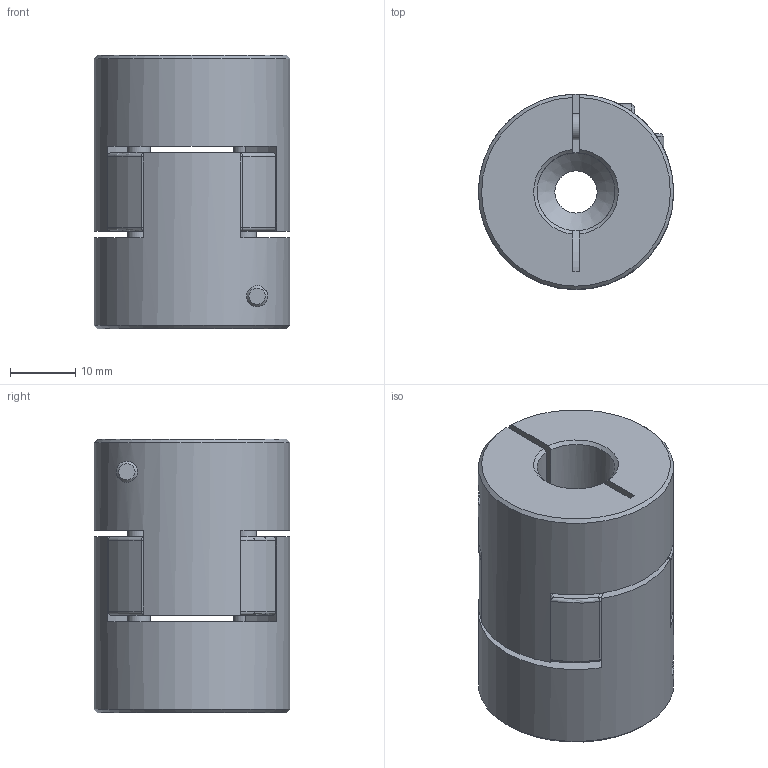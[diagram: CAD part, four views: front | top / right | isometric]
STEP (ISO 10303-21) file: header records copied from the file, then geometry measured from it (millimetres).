
FILE_DESCRIPTION(('STEP AP214'), '1');
FILE_NAME('BF-30-14-12 - Ìóôòà', '', ('UNSPECIFIED'), ('UNSPECIFIED'), 'ASCON STEP Converter 1.3', 'ASCON Math Kernel', '');
FILE_SCHEMA(('AUTOMOTIVE_DESIGN { 1 0 10303 214 3 1 1}'));
Length unit declared in the file: millimetre
Products named in the file (6): BF-30-14-12; BF-20-6.35-6
Assembly tree (5 placements, depth 2):
  BF-30-14-12
    BF-20-6.35-6
    BF-20-6.35-6
    BF-20-6.35-6
    (unnamed)
    (unnamed)
Bounding box: 30 x 30 x 42 mm (x, y, z)
Volume: 23534.4 mm3; surface area: 11789.7 mm2
Topology: 5 solids, 5 shells, 194 faces, 458 edges, 272 vertices
Faces by surface type: cylinder 66, plane 56, torus 46, cone 16, sphere 10
Full cylindrical faces by diameter (mm): 3 x2, 3.242 x4, 3.5 x4, 4 x2, 6.5 x1, 7 x2, 8 x2, 12 x1, 14 x1, 30 x2
Entity records: 8363 total; most frequent: CARTESIAN_POINT 2053, DIRECTION 1041, ORIENTED_EDGE 830, AXIS2_PLACEMENT_3D 466, EDGE_CURVE 415, VERTEX_POINT 268, CIRCLE 266, EDGE_LOOP 245
